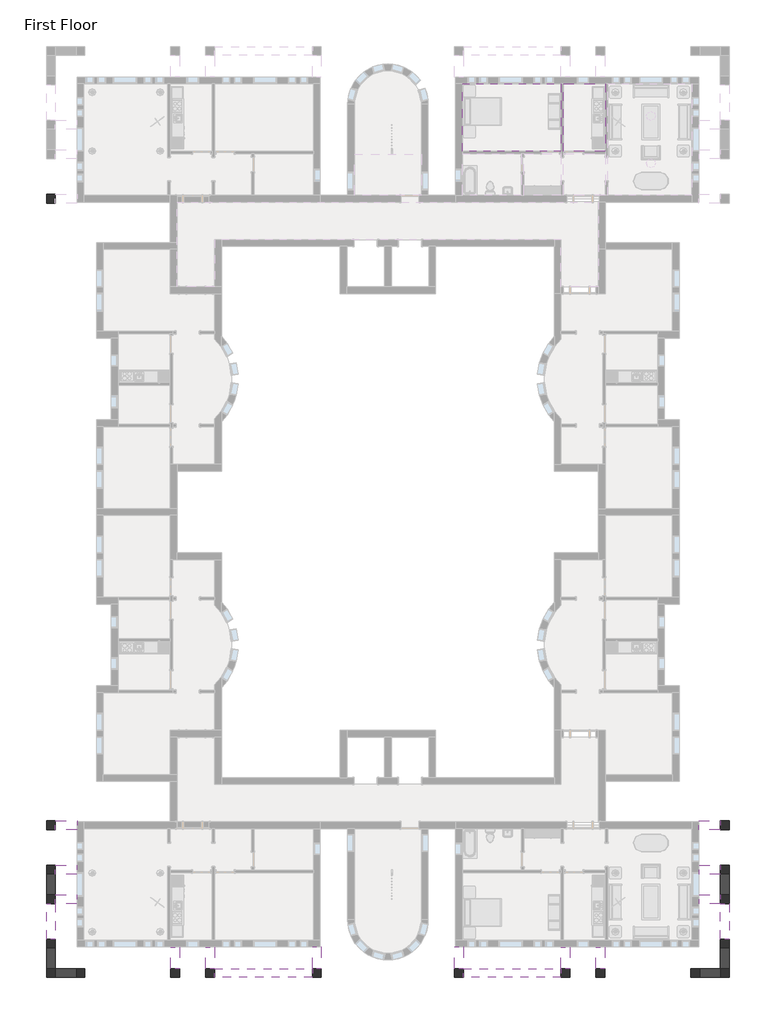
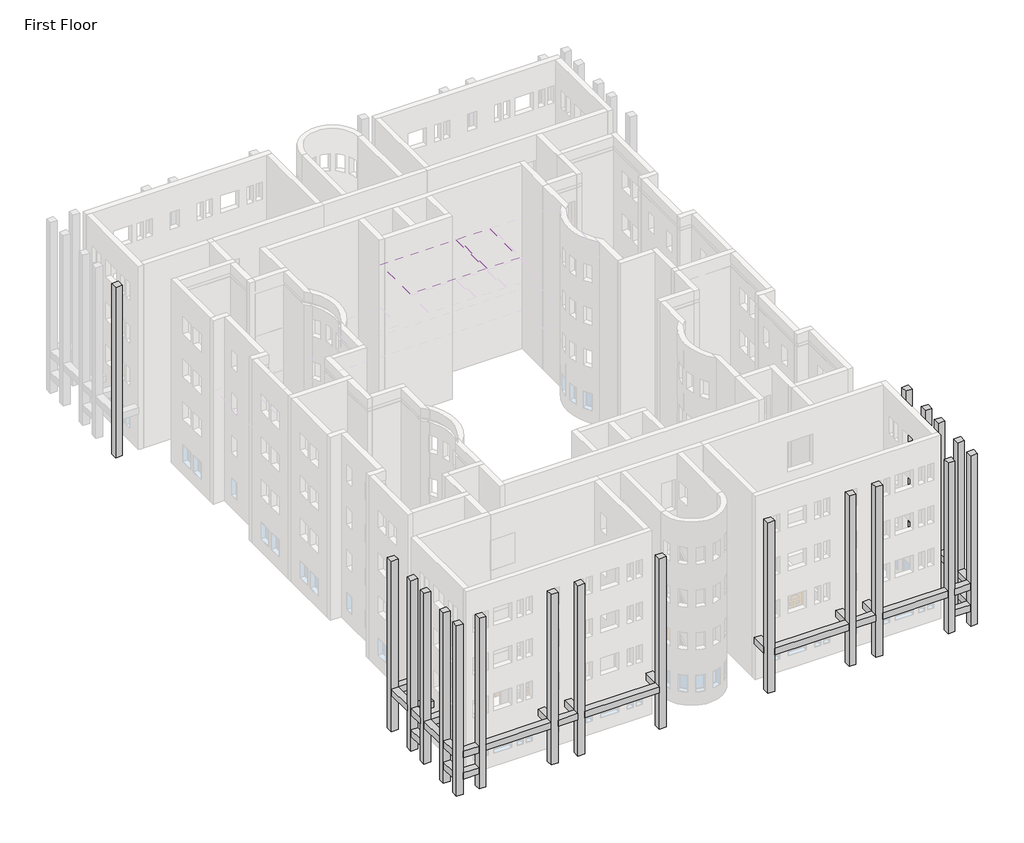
# One storey, part 19 of 23: 22 beams, 19 columns, 2 coverings.
"""IFC4 building model written with IfcOpenShell, lengths in millimetres."""

from ifc_helpers import new_model, si_unit, frame, origin, origin_with_axes, place, context, project, spatial, polyline, outline, extrude, faceted_brep, element, save

model = new_model("IFC4")

# Units and contexts
model_context = context("Model", 3, world=origin())
ifc_project = project(units=[si_unit("LENGTHUNIT", "METRE", prefix="MILLI")], contexts=[model_context])

# Site, building, storey
site = spatial("IfcSite", under=ifc_project)
building = spatial("IfcBuilding", under=site)
storey = spatial("IfcBuildingStorey", under=building, Name="First Floor", Elevation=0.0)

# Beams
placement = place(None, origin())
element("IfcBeam", 1, ObjectType="Concrete-Rectangular Beam : 18 x 18", at=placement, inside=storey, context=model_context, shape_type="SweptSolid", body=[
    extrude(outline(polyline([(2093.9410437, -35349.9683133), (2093.9410437, -35807.1683133), (1027.1410437, -35807.1683133), (1027.1410437, -35349.9683133), (2093.9410437, -35349.9683133)])), frame((0.0, 0.0, 2590.8), z_axis=(0.0, 0.0, 1.0), x_axis=(1.0, 0.0, 0.0)), (0.0, 0.0, 1.0), 457.2),
    extrude(outline(polyline([(569.9410437, -35349.9683133), (569.9410437, -35807.1683133), (-3862.3589563, -35807.1683133), (-3862.3589563, -35349.9683133), (569.9410437, -35349.9683133)])), frame((0.0, 0.0, 2590.8), z_axis=(0.0, 0.0, 1.0), x_axis=(1.0, 0.0, 0.0)), (0.0, 0.0, 1.0), 457.2),
    extrude(outline(polyline([(-5665.7589563, -35807.1683133), (-5665.7589563, -35349.9683133), (-4319.5589563, -35349.9683133), (-4319.5589563, -35807.1683133), (-5665.7589563, -35807.1683133)])), frame((0.0, 0.0, 2590.8), z_axis=(0.0, 0.0, 1.0), x_axis=(1.0, 0.0, 0.0)), (0.0, 0.0, 1.0), 457.2),
    extrude(outline(polyline([(-6122.9589563, -35349.9683133), (-6122.9589563, -35807.1683133), (-11164.8589563, -35807.1683133), (-11164.8589563, -35349.9683133), (-6122.9589563, -35349.9683133)])), frame((0.0, 0.0, 2590.8), z_axis=(0.0, 0.0, 1.0), x_axis=(1.0, 0.0, 0.0)), (0.0, 0.0, 1.0), 457.2),
])
element("IfcBeam", 2, ObjectType="Concrete-Rectangular Beam : 18 x 18", at=placement, inside=storey, context=model_context, shape_type="SweptSolid", body=[
    extrude(outline(polyline([(2093.9410437, -28187.1683133), (2551.1410437, -28187.1683133), (2551.1410437, -30015.9683133), (2093.9410437, -30015.9683133), (2093.9410437, -28187.1683133)])), frame((0.0, 0.0, 2590.8), z_axis=(0.0, 0.0, 1.0), x_axis=(1.0, 0.0, 0.0)), (0.0, 0.0, 1.0), 457.2),
    extrude(outline(polyline([(2551.1410437, -35349.9683133), (2093.9410437, -35349.9683133), (2093.9410437, -34283.1683133), (2551.1410437, -34283.1683133), (2551.1410437, -35349.9683133)])), frame((0.0, 0.0, 2590.8), z_axis=(0.0, 0.0, 1.0), x_axis=(1.0, 0.0, 0.0)), (0.0, 0.0, 1.0), 457.2),
    extrude(outline(polyline([(2093.9410437, -30473.1683133), (2551.1410437, -30473.1683133), (2551.1410437, -31539.9683133), (2093.9410437, -31539.9683133), (2093.9410437, -30473.1683133)])), frame((0.0, 0.0, 2590.8), z_axis=(0.0, 0.0, 1.0), x_axis=(1.0, 0.0, 0.0)), (0.0, 0.0, 1.0), 457.2),
    extrude(outline(polyline([(2551.1410437, -33825.9683133), (2093.9410437, -33825.9683133), (2093.9410437, -31997.1683133), (2551.1410437, -31997.1683133), (2551.1410437, -33825.9683133)])), frame((0.0, 0.0, 2590.8), z_axis=(0.0, 0.0, 1.0), x_axis=(1.0, 0.0, 0.0)), (0.0, 0.0, 1.0), 457.2),
])
element("IfcBeam", 3, ObjectType="Concrete-Rectangular Beam : 18 x 18", at=placement, inside=storey, context=model_context, shape_type="SweptSolid", body=[
    extrude(outline(polyline([(-11622.0589563, -34232.3683133), (-11164.8589563, -34232.3683133), (-11164.8589563, -35349.9683133), (-11622.0589563, -35349.9683133), (-11622.0589563, -34232.3683133)])), frame((0.0, 0.0, 2590.8), z_axis=(0.0, 0.0, 1.0), x_axis=(1.0, 0.0, 0.0)), (0.0, 0.0, 1.0), 457.2),
])
element("IfcBeam", 4, ObjectType="Concrete-Rectangular Beam : 18 x 18", at=placement, inside=storey, context=model_context, shape_type="SweptSolid", body=[
    extrude(outline(polyline([(-6122.9589563, -34251.4183133), (-5665.7589563, -34251.4183133), (-5665.7589563, -35349.9683133), (-6122.9589563, -35349.9683133), (-6122.9589563, -34251.4183133)])), frame((0.0, 0.0, 2590.8), z_axis=(0.0, 0.0, 1.0), x_axis=(1.0, 0.0, 0.0)), (0.0, 0.0, 1.0), 457.2),
])
element("IfcBeam", 5, ObjectType="Concrete-Rectangular Beam : 18 x 18", at=placement, inside=storey, context=model_context, shape_type="SweptSolid", body=[
    extrude(outline(polyline([(1001.7410437, -30473.1683133), (1001.7410437, -30015.9683133), (2093.9410437, -30015.9683133), (2093.9410437, -30473.1683133), (1001.7410437, -30473.1683133)])), frame((0.0, 0.0, 2590.8), z_axis=(0.0, 0.0, 1.0), x_axis=(1.0, 0.0, 0.0)), (0.0, 0.0, 1.0), 457.2),
])
element("IfcBeam", 6, ObjectType="Concrete-Rectangular Beam : 18 x 18", at=placement, inside=storey, context=model_context, shape_type="SweptSolid", body=[
    extrude(outline(polyline([(2093.9410437, -35807.1683133), (1027.1410437, -35807.1683133), (1027.1410437, -35349.9683133), (2093.9410437, -35349.9683133), (2093.9410437, -35807.1683133)])), frame((0.0, 0.0, 1066.8), z_axis=(0.0, 0.0, 1.0), x_axis=(1.0, 0.0, 0.0)), (0.0, 0.0, 1.0), 457.2),
])
element("IfcBeam", 7, ObjectType="Concrete-Rectangular Beam : 18 x 18", at=placement, inside=storey, context=model_context, shape_type="SweptSolid", body=[
    extrude(outline(polyline([(2551.1410437, -34283.1683133), (2551.1410437, -35349.9683133), (2093.9410437, -35349.9683133), (2093.9410437, -34283.1683133), (2551.1410437, -34283.1683133)])), frame((0.0, 0.0, 1066.8), z_axis=(0.0, 0.0, 1.0), x_axis=(1.0, 0.0, 0.0)), (0.0, 0.0, 1.0), 457.2),
])
element("IfcBeam", 8, ObjectType="Concrete-Rectangular Beam : 18 x 18", at=placement, inside=storey, context=model_context, shape_type="SweptSolid", body=[
    extrude(outline(polyline([(-4319.5589563, -34251.4183133), (-3862.3589563, -34251.4183133), (-3862.3589563, -35349.9683133), (-4319.5589563, -35349.9683133), (-4319.5589563, -34251.4183133)])), frame((0.0, 0.0, 2590.8), z_axis=(0.0, 0.0, 1.0), x_axis=(1.0, 0.0, 0.0)), (0.0, 0.0, 1.0), 457.2),
])
element("IfcBeam", 9, ObjectType="Concrete-Rectangular Beam : 18 x 18", at=placement, inside=storey, context=model_context, shape_type="SweptSolid", body=[
    extrude(outline(polyline([(1001.7410437, -31997.1683133), (1001.7410437, -31539.9683133), (2093.9410437, -31539.9683133), (2093.9410437, -31997.1683133), (1001.7410437, -31997.1683133)])), frame((0.0, 0.0, 2590.8), z_axis=(0.0, 0.0, 1.0), x_axis=(1.0, 0.0, 0.0)), (0.0, 0.0, 1.0), 457.2),
])
element("IfcBeam", 10, ObjectType="Concrete-Rectangular Beam : 18 x 18", at=placement, inside=storey, context=model_context, shape_type="SweptSolid", body=[
    extrude(outline(polyline([(976.3410437, -28187.1683133), (976.3410437, -27729.9683133), (2093.9410437, -27729.9683133), (2093.9410437, -28187.1683133), (976.3410437, -28187.1683133)])), frame((0.0, 0.0, 2590.8), z_axis=(0.0, 0.0, 1.0), x_axis=(1.0, 0.0, 0.0)), (0.0, 0.0, 1.0), 457.2),
])
element("IfcBeam", 11, ObjectType="Concrete-Rectangular Beam : 18 x 18", at=placement, inside=storey, context=model_context, shape_type="SweptSolid", body=[
    extrude(outline(polyline([(2551.1410437, -30473.1683133), (2551.1410437, -31539.9683133), (2093.9410437, -31539.9683133), (2093.9410437, -30473.1683133), (2551.1410437, -30473.1683133)])), frame((0.0, 0.0, 1066.8), z_axis=(0.0, 0.0, 1.0), x_axis=(1.0, 0.0, 0.0)), (0.0, 0.0, 1.0), 457.2),
])
element("IfcBeam", 12, ObjectType="Concrete-Rectangular Beam : 18 x 18", at=placement, inside=storey, context=model_context, shape_type="SweptSolid", body=[
    extrude(outline(polyline([(-32218.2839563, -35807.1683133), (-32218.2839563, -35349.9683133), (-31151.4839563, -35349.9683133), (-31151.4839563, -35807.1683133), (-32218.2839563, -35807.1683133)])), frame((0.0, 0.0, 2590.8), z_axis=(0.0, 0.0, 1.0), x_axis=(1.0, 0.0, 0.0)), (0.0, 0.0, 1.0), 457.2),
    extrude(outline(polyline([(-30694.2839563, -35807.1683133), (-30694.2839563, -35349.9683133), (-26261.9839563, -35349.9683133), (-26261.9839563, -35807.1683133), (-30694.2839563, -35807.1683133)])), frame((0.0, 0.0, 2590.8), z_axis=(0.0, 0.0, 1.0), x_axis=(1.0, 0.0, 0.0)), (0.0, 0.0, 1.0), 457.2),
    extrude(outline(polyline([(-24458.5839563, -35349.9683133), (-24458.5839563, -35807.1683133), (-25804.7839563, -35807.1683133), (-25804.7839563, -35349.9683133), (-24458.5839563, -35349.9683133)])), frame((0.0, 0.0, 2590.8), z_axis=(0.0, 0.0, 1.0), x_axis=(1.0, 0.0, 0.0)), (0.0, 0.0, 1.0), 457.2),
    extrude(outline(polyline([(-24001.3839563, -35807.1683133), (-24001.3839563, -35349.9683133), (-18959.4839563, -35349.9683133), (-18959.4839563, -35807.1683133), (-24001.3839563, -35807.1683133)])), frame((0.0, 0.0, 2590.8), z_axis=(0.0, 0.0, 1.0), x_axis=(1.0, 0.0, 0.0)), (0.0, 0.0, 1.0), 457.2),
])
element("IfcBeam", 13, ObjectType="Concrete-Rectangular Beam : 18 x 18", at=placement, inside=storey, context=model_context, shape_type="SweptSolid", body=[
    extrude(outline(polyline([(-32218.2839563, -35349.9683133), (-32675.4839563, -35349.9683133), (-32675.4839563, -34283.1683133), (-32218.2839563, -34283.1683133), (-32218.2839563, -35349.9683133)])), frame((0.0, 0.0, 2590.8), z_axis=(0.0, 0.0, 1.0), x_axis=(1.0, 0.0, 0.0)), (0.0, 0.0, 1.0), 457.2),
    extrude(outline(polyline([(-32675.4839563, -28187.1683133), (-32218.2839563, -28187.1683133), (-32218.2839563, -30015.9683133), (-32675.4839563, -30015.9683133), (-32675.4839563, -28187.1683133)])), frame((0.0, 0.0, 2590.8), z_axis=(0.0, 0.0, 1.0), x_axis=(1.0, 0.0, 0.0)), (0.0, 0.0, 1.0), 457.2),
    extrude(outline(polyline([(-32675.4839563, -30473.1683133), (-32218.2839563, -30473.1683133), (-32218.2839563, -31539.9683133), (-32675.4839563, -31539.9683133), (-32675.4839563, -30473.1683133)])), frame((0.0, 0.0, 2590.8), z_axis=(0.0, 0.0, 1.0), x_axis=(1.0, 0.0, 0.0)), (0.0, 0.0, 1.0), 457.2),
    extrude(outline(polyline([(-32218.2839563, -33825.9683133), (-32675.4839563, -33825.9683133), (-32675.4839563, -31997.1683133), (-32218.2839563, -31997.1683133), (-32218.2839563, -33825.9683133)])), frame((0.0, 0.0, 2590.8), z_axis=(0.0, 0.0, 1.0), x_axis=(1.0, 0.0, 0.0)), (0.0, 0.0, 1.0), 457.2),
])
element("IfcBeam", 14, ObjectType="Concrete-Rectangular Beam : 18 x 18", at=placement, inside=storey, context=model_context, shape_type="SweptSolid", body=[
    extrude(outline(polyline([(-18959.4839563, -34232.3683133), (-18502.2839563, -34232.3683133), (-18502.2839563, -35349.9683133), (-18959.4839563, -35349.9683133), (-18959.4839563, -34232.3683133)])), frame((0.0, 0.0, 2590.8), z_axis=(0.0, 0.0, 1.0), x_axis=(1.0, 0.0, 0.0)), (0.0, 0.0, 1.0), 457.2),
])
element("IfcBeam", 15, ObjectType="Concrete-Rectangular Beam : 18 x 18", at=placement, inside=storey, context=model_context, shape_type="SweptSolid", body=[
    extrude(outline(polyline([(-24458.5839563, -34251.4183133), (-24001.3839563, -34251.4183133), (-24001.3839563, -35349.9683133), (-24458.5839563, -35349.9683133), (-24458.5839563, -34251.4183133)])), frame((0.0, 0.0, 2590.8), z_axis=(0.0, 0.0, 1.0), x_axis=(1.0, 0.0, 0.0)), (0.0, 0.0, 1.0), 457.2),
])
element("IfcBeam", 16, ObjectType="Concrete-Rectangular Beam : 18 x 18", at=placement, inside=storey, context=model_context, shape_type="SweptSolid", body=[
    extrude(outline(polyline([(-31126.0839563, -30015.9683133), (-31126.0839563, -30473.1683133), (-32218.2839563, -30473.1683133), (-32218.2839563, -30015.9683133), (-31126.0839563, -30015.9683133)])), frame((0.0, 0.0, 2590.8), z_axis=(0.0, 0.0, 1.0), x_axis=(1.0, 0.0, 0.0)), (0.0, 0.0, 1.0), 457.2),
])
element("IfcBeam", 17, ObjectType="Concrete-Rectangular Beam : 18 x 18", at=placement, inside=storey, context=model_context, shape_type="SweptSolid", body=[
    extrude(outline(polyline([(-32218.2839563, -35807.1683133), (-32218.2839563, -35349.9683133), (-31151.4839563, -35349.9683133), (-31151.4839563, -35807.1683133), (-32218.2839563, -35807.1683133)])), frame((0.0, 0.0, 1066.8), z_axis=(0.0, 0.0, 1.0), x_axis=(1.0, 0.0, 0.0)), (0.0, 0.0, 1.0), 457.2),
])
element("IfcBeam", 18, ObjectType="Concrete-Rectangular Beam : 18 x 18", at=placement, inside=storey, context=model_context, shape_type="SweptSolid", body=[
    extrude(outline(polyline([(-32675.4839563, -34283.1683133), (-32218.2839563, -34283.1683133), (-32218.2839563, -35349.9683133), (-32675.4839563, -35349.9683133), (-32675.4839563, -34283.1683133)])), frame((0.0, 0.0, 1066.8), z_axis=(0.0, 0.0, 1.0), x_axis=(1.0, 0.0, 0.0)), (0.0, 0.0, 1.0), 457.2),
])
element("IfcBeam", 19, ObjectType="Concrete-Rectangular Beam : 18 x 18", at=placement, inside=storey, context=model_context, shape_type="SweptSolid", body=[
    extrude(outline(polyline([(-26261.9839563, -34251.4183133), (-25804.7839563, -34251.4183133), (-25804.7839563, -35349.9683133), (-26261.9839563, -35349.9683133), (-26261.9839563, -34251.4183133)])), frame((0.0, 0.0, 2590.8), z_axis=(0.0, 0.0, 1.0), x_axis=(1.0, 0.0, 0.0)), (0.0, 0.0, 1.0), 457.2),
])
element("IfcBeam", 20, ObjectType="Concrete-Rectangular Beam : 18 x 18", at=placement, inside=storey, context=model_context, shape_type="SweptSolid", body=[
    extrude(outline(polyline([(-31126.0839563, -31539.9683133), (-31126.0839563, -31997.1683133), (-32218.2839563, -31997.1683133), (-32218.2839563, -31539.9683133), (-31126.0839563, -31539.9683133)])), frame((0.0, 0.0, 2590.8), z_axis=(0.0, 0.0, 1.0), x_axis=(1.0, 0.0, 0.0)), (0.0, 0.0, 1.0), 457.2),
])
element("IfcBeam", 21, ObjectType="Concrete-Rectangular Beam : 18 x 18", at=placement, inside=storey, context=model_context, shape_type="SweptSolid", body=[
    extrude(outline(polyline([(-31100.6839563, -27729.9683133), (-31100.6839563, -28187.1683133), (-32218.2839563, -28187.1683133), (-32218.2839563, -27729.9683133), (-31100.6839563, -27729.9683133)])), frame((0.0, 0.0, 2590.8), z_axis=(0.0, 0.0, 1.0), x_axis=(1.0, 0.0, 0.0)), (0.0, 0.0, 1.0), 457.2),
])
element("IfcBeam", 22, ObjectType="Concrete-Rectangular Beam : 18 x 18", at=placement, inside=storey, context=model_context, shape_type="SweptSolid", body=[
    extrude(outline(polyline([(-32675.4839563, -30473.1683133), (-32218.2839563, -30473.1683133), (-32218.2839563, -31539.9683133), (-32675.4839563, -31539.9683133), (-32675.4839563, -30473.1683133)])), frame((0.0, 0.0, 1066.8), z_axis=(0.0, 0.0, 1.0), x_axis=(1.0, 0.0, 0.0)), (0.0, 0.0, 1.0), 457.2),
])

# Columns
element("IfcColumn", 23, ObjectType="Concrete-Square-Column : 18 x 18", at=placement, inside=storey, context=model_context, shape_type="SweptSolid", body=[
    extrude(outline(polyline([(-32675.4839563, 4578.8316867), (-32218.2839563, 4578.8316867), (-32218.2839563, 4121.6316867), (-32675.4839563, 4121.6316867), (-32675.4839563, 4578.8316867)])), origin_with_axes(), (0.0, 0.0, 1.0), 12192.0),
])
element("IfcColumn", 24, ObjectType="Concrete-Square-Column : 18 x 18", at=placement, inside=storey, context=model_context, shape_type="Brep", body=[
    faceted_brep([(1027.1410437, -35807.1683133, 0.0), (569.9410437, -35807.1683133, 0.0), (569.9410437, -35349.9683133, 0.0), (1027.1410437, -35349.9683133, 0.0), (1027.1410437, -35807.1683133, 12192.0), (1027.1410437, -35807.1683133, 11734.8), (1027.1410437, -35807.1683133, 9144.0), (1027.1410437, -35807.1683133, 8686.8), (1027.1410437, -35807.1683133, 6096.0), (1027.1410437, -35807.1683133, 5638.8), (1027.1410437, -35807.1683133, 3048.0), (1027.1410437, -35807.1683133, 2590.8), (1027.1410437, -35349.9683133, 2590.8), (1027.1410437, -35349.9683133, 3048.0), (1027.1410437, -35349.9683133, 5638.8), (1027.1410437, -35349.9683133, 6096.0), (1027.1410437, -35349.9683133, 8686.8), (1027.1410437, -35349.9683133, 9144.0), (1027.1410437, -35349.9683133, 11734.8), (1027.1410437, -35349.9683133, 12192.0), (569.9410437, -35349.9683133, 2590.8), (569.9410437, -35349.9683133, 3048.0), (569.9410437, -35349.9683133, 5638.8), (569.9410437, -35349.9683133, 6096.0), (569.9410437, -35349.9683133, 8686.8), (569.9410437, -35349.9683133, 9144.0), (569.9410437, -35349.9683133, 11734.8), (569.9410437, -35349.9683133, 12192.0), (569.9410437, -35807.1683133, 2590.8), (569.9410437, -35807.1683133, 3048.0), (569.9410437, -35807.1683133, 5638.8), (569.9410437, -35807.1683133, 6096.0), (569.9410437, -35807.1683133, 8686.8), (569.9410437, -35807.1683133, 9144.0), (569.9410437, -35807.1683133, 11734.8), (569.9410437, -35807.1683133, 12192.0)], [[[0, 1, 2, 3]], [[4, 5, 6, 7, 8, 9, 10, 11, 0, 3, 12, 13, 14, 15, 16, 17, 18, 19]], [[19, 18, 17, 16, 15, 14, 13, 12, 3, 2, 20, 21, 22, 23, 24, 25, 26, 27]], [[27, 26, 25, 24, 23, 22, 21, 20, 2, 1, 28, 29, 30, 31, 32, 33, 34, 35]], [[35, 34, 33, 32, 31, 30, 29, 28, 1, 0, 11, 10, 9, 8, 7, 6, 5, 4]], [[4, 19, 27, 35]]]),
])
element("IfcColumn", 25, ObjectType="Concrete-Square-Column : 18 x 18", at=placement, inside=storey, context=model_context, shape_type="SweptSolid", body=[
    extrude(outline(polyline([(2551.1410437, -35807.1683133), (2093.9410437, -35807.1683133), (2093.9410437, -35349.9683133), (2551.1410437, -35349.9683133), (2551.1410437, -35807.1683133)])), origin_with_axes(), (0.0, 0.0, 1.0), 12192.0),
])
element("IfcColumn", 26, ObjectType="Concrete-Square-Column : 18 x 18", at=placement, inside=storey, context=model_context, shape_type="Brep", body=[
    faceted_brep([(-5665.7589563, -35807.1683133, 0.0), (-6122.9589563, -35807.1683133, 0.0), (-6122.9589563, -35349.9683133, 0.0), (-5665.7589563, -35349.9683133, 0.0), (-5665.7589563, -35807.1683133, 12192.0), (-5665.7589563, -35807.1683133, 11734.8), (-5665.7589563, -35807.1683133, 9144.0), (-5665.7589563, -35807.1683133, 8686.8), (-5665.7589563, -35807.1683133, 6096.0), (-5665.7589563, -35807.1683133, 5638.8), (-5665.7589563, -35807.1683133, 3048.0), (-5665.7589563, -35807.1683133, 2590.8), (-5665.7589563, -35349.9683133, 2590.8), (-5665.7589563, -35349.9683133, 3048.0), (-5665.7589563, -35349.9683133, 5638.8), (-5665.7589563, -35349.9683133, 6096.0), (-5665.7589563, -35349.9683133, 8686.8), (-5665.7589563, -35349.9683133, 9144.0), (-5665.7589563, -35349.9683133, 11734.8), (-5665.7589563, -35349.9683133, 12192.0), (-6122.9589563, -35349.9683133, 2590.8), (-6122.9589563, -35349.9683133, 3048.0), (-6122.9589563, -35349.9683133, 5638.8), (-6122.9589563, -35349.9683133, 6096.0), (-6122.9589563, -35349.9683133, 8686.8), (-6122.9589563, -35349.9683133, 9144.0), (-6122.9589563, -35349.9683133, 11734.8), (-6122.9589563, -35349.9683133, 12192.0), (-6122.9589563, -35807.1683133, 2590.8), (-6122.9589563, -35807.1683133, 3048.0), (-6122.9589563, -35807.1683133, 5638.8), (-6122.9589563, -35807.1683133, 6096.0), (-6122.9589563, -35807.1683133, 8686.8), (-6122.9589563, -35807.1683133, 9144.0), (-6122.9589563, -35807.1683133, 11734.8), (-6122.9589563, -35807.1683133, 12192.0)], [[[0, 1, 2, 3]], [[4, 5, 6, 7, 8, 9, 10, 11, 0, 3, 12, 13, 14, 15, 16, 17, 18, 19]], [[19, 18, 17, 16, 15, 14, 13, 12, 3, 2, 20, 21, 22, 23, 24, 25, 26, 27]], [[27, 26, 25, 24, 23, 22, 21, 20, 2, 1, 28, 29, 30, 31, 32, 33, 34, 35]], [[35, 34, 33, 32, 31, 30, 29, 28, 1, 0, 11, 10, 9, 8, 7, 6, 5, 4]], [[4, 19, 27, 35]]]),
])
element("IfcColumn", 27, ObjectType="Concrete-Square-Column : 18 x 18", at=placement, inside=storey, context=model_context, shape_type="Brep", body=[
    faceted_brep([(2551.1410437, -30473.1683133, 0.0), (2093.9410437, -30473.1683133, 0.0), (2093.9410437, -30015.9683133, 0.0), (2551.1410437, -30015.9683133, 0.0), (2551.1410437, -30473.1683133, 12192.0), (2551.1410437, -30473.1683133, 11734.8), (2551.1410437, -30473.1683133, 9144.0), (2551.1410437, -30473.1683133, 8686.8), (2551.1410437, -30473.1683133, 6096.0), (2551.1410437, -30473.1683133, 5638.8), (2551.1410437, -30473.1683133, 3048.0), (2551.1410437, -30473.1683133, 2590.8), (2551.1410437, -30015.9683133, 2590.8), (2551.1410437, -30015.9683133, 3048.0), (2551.1410437, -30015.9683133, 5638.8), (2551.1410437, -30015.9683133, 6096.0), (2551.1410437, -30015.9683133, 8686.8), (2551.1410437, -30015.9683133, 9144.0), (2551.1410437, -30015.9683133, 11734.8), (2551.1410437, -30015.9683133, 12192.0), (2093.9410437, -30015.9683133, 2590.8), (2093.9410437, -30015.9683133, 3048.0), (2093.9410437, -30015.9683133, 5638.8), (2093.9410437, -30015.9683133, 6096.0), (2093.9410437, -30015.9683133, 8686.8), (2093.9410437, -30015.9683133, 9144.0), (2093.9410437, -30015.9683133, 11734.8), (2093.9410437, -30015.9683133, 12192.0), (2093.9410437, -30473.1683133, 2590.8), (2093.9410437, -30473.1683133, 3048.0), (2093.9410437, -30473.1683133, 5638.8), (2093.9410437, -30473.1683133, 6096.0), (2093.9410437, -30473.1683133, 8686.8), (2093.9410437, -30473.1683133, 9144.0), (2093.9410437, -30473.1683133, 11734.8), (2093.9410437, -30473.1683133, 12192.0)], [[[0, 1, 2, 3]], [[4, 5, 6, 7, 8, 9, 10, 11, 0, 3, 12, 13, 14, 15, 16, 17, 18, 19]], [[19, 18, 17, 16, 15, 14, 13, 12, 3, 2, 20, 21, 22, 23, 24, 25, 26, 27]], [[27, 26, 25, 24, 23, 22, 21, 20, 2, 1, 28, 29, 30, 31, 32, 33, 34, 35]], [[35, 34, 33, 32, 31, 30, 29, 28, 1, 0, 11, 10, 9, 8, 7, 6, 5, 4]], [[4, 19, 27, 35]]]),
])
element("IfcColumn", 28, ObjectType="Concrete-Square-Column : 18 x 18", at=placement, inside=storey, context=model_context, shape_type="SweptSolid", body=[
    extrude(outline(polyline([(2551.1410437, -28187.1683133), (2093.9410437, -28187.1683133), (2093.9410437, -27729.9683133), (2551.1410437, -27729.9683133), (2551.1410437, -28187.1683133)])), origin_with_axes(), (0.0, 0.0, 1.0), 12192.0),
])
element("IfcColumn", 29, ObjectType="Concrete-Square-Column : 18 x 18", at=placement, inside=storey, context=model_context, shape_type="Brep", body=[
    faceted_brep([(-11164.8589563, -35807.1683133, 0.0), (-11622.0589563, -35807.1683133, 0.0), (-11622.0589563, -35349.9683133, 0.0), (-11164.8589563, -35349.9683133, 0.0), (-11164.8589563, -35807.1683133, 12192.0), (-11164.8589563, -35807.1683133, 11734.8), (-11164.8589563, -35807.1683133, 9144.0), (-11164.8589563, -35807.1683133, 8686.8), (-11164.8589563, -35807.1683133, 6096.0), (-11164.8589563, -35807.1683133, 5638.8), (-11164.8589563, -35807.1683133, 3048.0), (-11164.8589563, -35807.1683133, 2590.8), (-11164.8589563, -35349.9683133, 2590.8), (-11164.8589563, -35349.9683133, 3048.0), (-11164.8589563, -35349.9683133, 5638.8), (-11164.8589563, -35349.9683133, 6096.0), (-11164.8589563, -35349.9683133, 8686.8), (-11164.8589563, -35349.9683133, 9144.0), (-11164.8589563, -35349.9683133, 11734.8), (-11164.8589563, -35349.9683133, 12192.0), (-11622.0589563, -35349.9683133, 12192.0), (-11622.0589563, -35807.1683133, 12192.0)], [[[0, 1, 2, 3]], [[4, 5, 6, 7, 8, 9, 10, 11, 0, 3, 12, 13, 14, 15, 16, 17, 18, 19]], [[19, 18, 17, 16, 15, 14, 13, 12, 3, 2, 20]], [[20, 2, 1, 21]], [[21, 1, 0, 11, 10, 9, 8, 7, 6, 5, 4]], [[4, 19, 20, 21]]]),
])
element("IfcColumn", 30, ObjectType="Concrete-Square-Column : 18 x 18", at=placement, inside=storey, context=model_context, shape_type="Brep", body=[
    faceted_brep([(2551.1410437, -34283.1683133, 0.0), (2093.9410437, -34283.1683133, 0.0), (2093.9410437, -33825.9683133, 0.0), (2551.1410437, -33825.9683133, 0.0), (2551.1410437, -34283.1683133, 12192.0), (2551.1410437, -34283.1683133, 11734.8), (2551.1410437, -34283.1683133, 9144.0), (2551.1410437, -34283.1683133, 8686.8), (2551.1410437, -34283.1683133, 6096.0), (2551.1410437, -34283.1683133, 5638.8), (2551.1410437, -34283.1683133, 3048.0), (2551.1410437, -34283.1683133, 2590.8), (2551.1410437, -33825.9683133, 2590.8), (2551.1410437, -33825.9683133, 3048.0), (2551.1410437, -33825.9683133, 5638.8), (2551.1410437, -33825.9683133, 6096.0), (2551.1410437, -33825.9683133, 8686.8), (2551.1410437, -33825.9683133, 9144.0), (2551.1410437, -33825.9683133, 11734.8), (2551.1410437, -33825.9683133, 12192.0), (2093.9410437, -33825.9683133, 2590.8), (2093.9410437, -33825.9683133, 3048.0), (2093.9410437, -33825.9683133, 5638.8), (2093.9410437, -33825.9683133, 6096.0), (2093.9410437, -33825.9683133, 8686.8), (2093.9410437, -33825.9683133, 9144.0), (2093.9410437, -33825.9683133, 11734.8), (2093.9410437, -33825.9683133, 12192.0), (2093.9410437, -34283.1683133, 2590.8), (2093.9410437, -34283.1683133, 3048.0), (2093.9410437, -34283.1683133, 5638.8), (2093.9410437, -34283.1683133, 6096.0), (2093.9410437, -34283.1683133, 8686.8), (2093.9410437, -34283.1683133, 9144.0), (2093.9410437, -34283.1683133, 11734.8), (2093.9410437, -34283.1683133, 12192.0)], [[[0, 1, 2, 3]], [[4, 5, 6, 7, 8, 9, 10, 11, 0, 3, 12, 13, 14, 15, 16, 17, 18, 19]], [[19, 18, 17, 16, 15, 14, 13, 12, 3, 2, 20, 21, 22, 23, 24, 25, 26, 27]], [[27, 26, 25, 24, 23, 22, 21, 20, 2, 1, 28, 29, 30, 31, 32, 33, 34, 35]], [[35, 34, 33, 32, 31, 30, 29, 28, 1, 0, 11, 10, 9, 8, 7, 6, 5, 4]], [[4, 19, 27, 35]]]),
])
element("IfcColumn", 31, ObjectType="Concrete-Square-Column : 18 x 18", at=placement, inside=storey, context=model_context, shape_type="Brep", body=[
    faceted_brep([(2551.1410437, -31997.1683133, 0.0), (2093.9410437, -31997.1683133, 0.0), (2093.9410437, -31539.9683133, 0.0), (2551.1410437, -31539.9683133, 0.0), (2551.1410437, -31997.1683133, 12192.0), (2551.1410437, -31997.1683133, 11734.8), (2551.1410437, -31997.1683133, 9144.0), (2551.1410437, -31997.1683133, 8686.8), (2551.1410437, -31997.1683133, 6096.0), (2551.1410437, -31997.1683133, 5638.8), (2551.1410437, -31997.1683133, 3048.0), (2551.1410437, -31997.1683133, 2590.8), (2551.1410437, -31539.9683133, 2590.8), (2551.1410437, -31539.9683133, 3048.0), (2551.1410437, -31539.9683133, 5638.8), (2551.1410437, -31539.9683133, 6096.0), (2551.1410437, -31539.9683133, 8686.8), (2551.1410437, -31539.9683133, 9144.0), (2551.1410437, -31539.9683133, 11734.8), (2551.1410437, -31539.9683133, 12192.0), (2093.9410437, -31539.9683133, 2590.8), (2093.9410437, -31539.9683133, 3048.0), (2093.9410437, -31539.9683133, 5638.8), (2093.9410437, -31539.9683133, 6096.0), (2093.9410437, -31539.9683133, 8686.8), (2093.9410437, -31539.9683133, 9144.0), (2093.9410437, -31539.9683133, 11734.8), (2093.9410437, -31539.9683133, 12192.0), (2093.9410437, -31997.1683133, 2590.8), (2093.9410437, -31997.1683133, 3048.0), (2093.9410437, -31997.1683133, 5638.8), (2093.9410437, -31997.1683133, 6096.0), (2093.9410437, -31997.1683133, 8686.8), (2093.9410437, -31997.1683133, 9144.0), (2093.9410437, -31997.1683133, 11734.8), (2093.9410437, -31997.1683133, 12192.0)], [[[0, 1, 2, 3]], [[4, 5, 6, 7, 8, 9, 10, 11, 0, 3, 12, 13, 14, 15, 16, 17, 18, 19]], [[19, 18, 17, 16, 15, 14, 13, 12, 3, 2, 20, 21, 22, 23, 24, 25, 26, 27]], [[27, 26, 25, 24, 23, 22, 21, 20, 2, 1, 28, 29, 30, 31, 32, 33, 34, 35]], [[35, 34, 33, 32, 31, 30, 29, 28, 1, 0, 11, 10, 9, 8, 7, 6, 5, 4]], [[4, 19, 27, 35]]]),
])
element("IfcColumn", 32, ObjectType="Concrete-Square-Column : 18 x 18", at=placement, inside=storey, context=model_context, shape_type="Brep", body=[
    faceted_brep([(-3862.3589563, -35807.1683133, 0.0), (-4319.5589563, -35807.1683133, 0.0), (-4319.5589563, -35349.9683133, 0.0), (-3862.3589563, -35349.9683133, 0.0), (-3862.3589563, -35807.1683133, 12192.0), (-3862.3589563, -35807.1683133, 11734.8), (-3862.3589563, -35807.1683133, 9144.0), (-3862.3589563, -35807.1683133, 8686.8), (-3862.3589563, -35807.1683133, 6096.0), (-3862.3589563, -35807.1683133, 5638.8), (-3862.3589563, -35807.1683133, 3048.0), (-3862.3589563, -35807.1683133, 2590.8), (-3862.3589563, -35349.9683133, 2590.8), (-3862.3589563, -35349.9683133, 3048.0), (-3862.3589563, -35349.9683133, 5638.8), (-3862.3589563, -35349.9683133, 6096.0), (-3862.3589563, -35349.9683133, 8686.8), (-3862.3589563, -35349.9683133, 9144.0), (-3862.3589563, -35349.9683133, 11734.8), (-3862.3589563, -35349.9683133, 12192.0), (-4319.5589563, -35349.9683133, 2590.8), (-4319.5589563, -35349.9683133, 3048.0), (-4319.5589563, -35349.9683133, 5638.8), (-4319.5589563, -35349.9683133, 6096.0), (-4319.5589563, -35349.9683133, 8686.8), (-4319.5589563, -35349.9683133, 9144.0), (-4319.5589563, -35349.9683133, 11734.8), (-4319.5589563, -35349.9683133, 12192.0), (-4319.5589563, -35807.1683133, 2590.8), (-4319.5589563, -35807.1683133, 3048.0), (-4319.5589563, -35807.1683133, 5638.8), (-4319.5589563, -35807.1683133, 6096.0), (-4319.5589563, -35807.1683133, 8686.8), (-4319.5589563, -35807.1683133, 9144.0), (-4319.5589563, -35807.1683133, 11734.8), (-4319.5589563, -35807.1683133, 12192.0)], [[[0, 1, 2, 3]], [[4, 5, 6, 7, 8, 9, 10, 11, 0, 3, 12, 13, 14, 15, 16, 17, 18, 19]], [[19, 18, 17, 16, 15, 14, 13, 12, 3, 2, 20, 21, 22, 23, 24, 25, 26, 27]], [[27, 26, 25, 24, 23, 22, 21, 20, 2, 1, 28, 29, 30, 31, 32, 33, 34, 35]], [[35, 34, 33, 32, 31, 30, 29, 28, 1, 0, 11, 10, 9, 8, 7, 6, 5, 4]], [[4, 19, 27, 35]]]),
])
element("IfcColumn", 33, ObjectType="Concrete-Square-Column : 18 x 18", at=placement, inside=storey, context=model_context, shape_type="Brep", body=[
    faceted_brep([(-31151.4839563, -35807.1683133, 0.0), (-31151.4839563, -35349.9683133, 0.0), (-30694.2839563, -35349.9683133, 0.0), (-30694.2839563, -35807.1683133, 0.0), (-31151.4839563, -35807.1683133, 12192.0), (-31151.4839563, -35349.9683133, 12192.0), (-31151.4839563, -35349.9683133, 11734.8), (-31151.4839563, -35349.9683133, 9144.0), (-31151.4839563, -35349.9683133, 8686.8), (-31151.4839563, -35349.9683133, 6096.0), (-31151.4839563, -35349.9683133, 5638.8), (-31151.4839563, -35349.9683133, 3048.0), (-31151.4839563, -35349.9683133, 2590.8), (-31151.4839563, -35807.1683133, 2590.8), (-31151.4839563, -35807.1683133, 3048.0), (-31151.4839563, -35807.1683133, 5638.8), (-31151.4839563, -35807.1683133, 6096.0), (-31151.4839563, -35807.1683133, 8686.8), (-31151.4839563, -35807.1683133, 9144.0), (-31151.4839563, -35807.1683133, 11734.8), (-30694.2839563, -35349.9683133, 12192.0), (-30694.2839563, -35349.9683133, 11734.8), (-30694.2839563, -35349.9683133, 9144.0), (-30694.2839563, -35349.9683133, 8686.8), (-30694.2839563, -35349.9683133, 6096.0), (-30694.2839563, -35349.9683133, 5638.8), (-30694.2839563, -35349.9683133, 3048.0), (-30694.2839563, -35349.9683133, 2590.8), (-30694.2839563, -35807.1683133, 12192.0), (-30694.2839563, -35807.1683133, 11734.8), (-30694.2839563, -35807.1683133, 9144.0), (-30694.2839563, -35807.1683133, 8686.8), (-30694.2839563, -35807.1683133, 6096.0), (-30694.2839563, -35807.1683133, 5638.8), (-30694.2839563, -35807.1683133, 3048.0), (-30694.2839563, -35807.1683133, 2590.8)], [[[0, 1, 2, 3]], [[4, 5, 6, 7, 8, 9, 10, 11, 12, 1, 0, 13, 14, 15, 16, 17, 18, 19]], [[5, 20, 21, 22, 23, 24, 25, 26, 27, 2, 1, 12, 11, 10, 9, 8, 7, 6]], [[20, 28, 29, 30, 31, 32, 33, 34, 35, 3, 2, 27, 26, 25, 24, 23, 22, 21]], [[28, 4, 19, 18, 17, 16, 15, 14, 13, 0, 3, 35, 34, 33, 32, 31, 30, 29]], [[4, 28, 20, 5]]]),
])
element("IfcColumn", 34, ObjectType="Concrete-Square-Column : 18 x 18", at=placement, inside=storey, context=model_context, shape_type="SweptSolid", body=[
    extrude(outline(polyline([(-32675.4839563, -35807.1683133), (-32675.4839563, -35349.9683133), (-32218.2839563, -35349.9683133), (-32218.2839563, -35807.1683133), (-32675.4839563, -35807.1683133)])), origin_with_axes(), (0.0, 0.0, 1.0), 12192.0),
])
element("IfcColumn", 35, ObjectType="Concrete-Square-Column : 18 x 18", at=placement, inside=storey, context=model_context, shape_type="Brep", body=[
    faceted_brep([(-24458.5839563, -35807.1683133, 0.0), (-24458.5839563, -35349.9683133, 0.0), (-24001.3839563, -35349.9683133, 0.0), (-24001.3839563, -35807.1683133, 0.0), (-24458.5839563, -35807.1683133, 12192.0), (-24458.5839563, -35349.9683133, 12192.0), (-24458.5839563, -35349.9683133, 11734.8), (-24458.5839563, -35349.9683133, 9144.0), (-24458.5839563, -35349.9683133, 8686.8), (-24458.5839563, -35349.9683133, 6096.0), (-24458.5839563, -35349.9683133, 5638.8), (-24458.5839563, -35349.9683133, 3048.0), (-24458.5839563, -35349.9683133, 2590.8), (-24458.5839563, -35807.1683133, 2590.8), (-24458.5839563, -35807.1683133, 3048.0), (-24458.5839563, -35807.1683133, 5638.8), (-24458.5839563, -35807.1683133, 6096.0), (-24458.5839563, -35807.1683133, 8686.8), (-24458.5839563, -35807.1683133, 9144.0), (-24458.5839563, -35807.1683133, 11734.8), (-24001.3839563, -35349.9683133, 12192.0), (-24001.3839563, -35349.9683133, 11734.8), (-24001.3839563, -35349.9683133, 9144.0), (-24001.3839563, -35349.9683133, 8686.8), (-24001.3839563, -35349.9683133, 6096.0), (-24001.3839563, -35349.9683133, 5638.8), (-24001.3839563, -35349.9683133, 3048.0), (-24001.3839563, -35349.9683133, 2590.8), (-24001.3839563, -35807.1683133, 12192.0), (-24001.3839563, -35807.1683133, 11734.8), (-24001.3839563, -35807.1683133, 9144.0), (-24001.3839563, -35807.1683133, 8686.8), (-24001.3839563, -35807.1683133, 6096.0), (-24001.3839563, -35807.1683133, 5638.8), (-24001.3839563, -35807.1683133, 3048.0), (-24001.3839563, -35807.1683133, 2590.8)], [[[0, 1, 2, 3]], [[4, 5, 6, 7, 8, 9, 10, 11, 12, 1, 0, 13, 14, 15, 16, 17, 18, 19]], [[5, 20, 21, 22, 23, 24, 25, 26, 27, 2, 1, 12, 11, 10, 9, 8, 7, 6]], [[20, 28, 29, 30, 31, 32, 33, 34, 35, 3, 2, 27, 26, 25, 24, 23, 22, 21]], [[28, 4, 19, 18, 17, 16, 15, 14, 13, 0, 3, 35, 34, 33, 32, 31, 30, 29]], [[4, 28, 20, 5]]]),
])
element("IfcColumn", 36, ObjectType="Concrete-Square-Column : 18 x 18", at=placement, inside=storey, context=model_context, shape_type="Brep", body=[
    faceted_brep([(-32675.4839563, -30473.1683133, 0.0), (-32675.4839563, -30015.9683133, 0.0), (-32218.2839563, -30015.9683133, 0.0), (-32218.2839563, -30473.1683133, 0.0), (-32675.4839563, -30473.1683133, 12192.0), (-32675.4839563, -30015.9683133, 12192.0), (-32675.4839563, -30015.9683133, 11734.8), (-32675.4839563, -30015.9683133, 9144.0), (-32675.4839563, -30015.9683133, 8686.8), (-32675.4839563, -30015.9683133, 6096.0), (-32675.4839563, -30015.9683133, 5638.8), (-32675.4839563, -30015.9683133, 3048.0), (-32675.4839563, -30015.9683133, 2590.8), (-32675.4839563, -30473.1683133, 2590.8), (-32675.4839563, -30473.1683133, 3048.0), (-32675.4839563, -30473.1683133, 5638.8), (-32675.4839563, -30473.1683133, 6096.0), (-32675.4839563, -30473.1683133, 8686.8), (-32675.4839563, -30473.1683133, 9144.0), (-32675.4839563, -30473.1683133, 11734.8), (-32218.2839563, -30015.9683133, 12192.0), (-32218.2839563, -30015.9683133, 11734.8), (-32218.2839563, -30015.9683133, 9144.0), (-32218.2839563, -30015.9683133, 8686.8), (-32218.2839563, -30015.9683133, 6096.0), (-32218.2839563, -30015.9683133, 5638.8), (-32218.2839563, -30015.9683133, 3048.0), (-32218.2839563, -30015.9683133, 2590.8), (-32218.2839563, -30473.1683133, 12192.0), (-32218.2839563, -30473.1683133, 11734.8), (-32218.2839563, -30473.1683133, 9144.0), (-32218.2839563, -30473.1683133, 8686.8), (-32218.2839563, -30473.1683133, 6096.0), (-32218.2839563, -30473.1683133, 5638.8), (-32218.2839563, -30473.1683133, 3048.0), (-32218.2839563, -30473.1683133, 2590.8)], [[[0, 1, 2, 3]], [[4, 5, 6, 7, 8, 9, 10, 11, 12, 1, 0, 13, 14, 15, 16, 17, 18, 19]], [[5, 20, 21, 22, 23, 24, 25, 26, 27, 2, 1, 12, 11, 10, 9, 8, 7, 6]], [[20, 28, 29, 30, 31, 32, 33, 34, 35, 3, 2, 27, 26, 25, 24, 23, 22, 21]], [[28, 4, 19, 18, 17, 16, 15, 14, 13, 0, 3, 35, 34, 33, 32, 31, 30, 29]], [[4, 28, 20, 5]]]),
])
element("IfcColumn", 37, ObjectType="Concrete-Square-Column : 18 x 18", at=placement, inside=storey, context=model_context, shape_type="SweptSolid", body=[
    extrude(outline(polyline([(-32675.4839563, -28187.1683133), (-32675.4839563, -27729.9683133), (-32218.2839563, -27729.9683133), (-32218.2839563, -28187.1683133), (-32675.4839563, -28187.1683133)])), origin_with_axes(), (0.0, 0.0, 1.0), 12192.0),
])
element("IfcColumn", 38, ObjectType="Concrete-Square-Column : 18 x 18", at=placement, inside=storey, context=model_context, shape_type="Brep", body=[
    faceted_brep([(-18959.4839563, -35807.1683133, 0.0), (-18959.4839563, -35349.9683133, 0.0), (-18502.2839563, -35349.9683133, 0.0), (-18502.2839563, -35807.1683133, 0.0), (-18959.4839563, -35807.1683133, 12192.0), (-18959.4839563, -35349.9683133, 12192.0), (-18959.4839563, -35349.9683133, 11734.8), (-18959.4839563, -35349.9683133, 9144.0), (-18959.4839563, -35349.9683133, 8686.8), (-18959.4839563, -35349.9683133, 6096.0), (-18959.4839563, -35349.9683133, 5638.8), (-18959.4839563, -35349.9683133, 3048.0), (-18959.4839563, -35349.9683133, 2590.8), (-18959.4839563, -35807.1683133, 2590.8), (-18959.4839563, -35807.1683133, 3048.0), (-18959.4839563, -35807.1683133, 5638.8), (-18959.4839563, -35807.1683133, 6096.0), (-18959.4839563, -35807.1683133, 8686.8), (-18959.4839563, -35807.1683133, 9144.0), (-18959.4839563, -35807.1683133, 11734.8), (-18502.2839563, -35349.9683133, 12192.0), (-18502.2839563, -35807.1683133, 12192.0)], [[[0, 1, 2, 3]], [[4, 5, 6, 7, 8, 9, 10, 11, 12, 1, 0, 13, 14, 15, 16, 17, 18, 19]], [[5, 20, 2, 1, 12, 11, 10, 9, 8, 7, 6]], [[20, 21, 3, 2]], [[21, 4, 19, 18, 17, 16, 15, 14, 13, 0, 3]], [[4, 21, 20, 5]]]),
])
element("IfcColumn", 39, ObjectType="Concrete-Square-Column : 18 x 18", at=placement, inside=storey, context=model_context, shape_type="Brep", body=[
    faceted_brep([(-32675.4839563, -34283.1683133, 0.0), (-32675.4839563, -33825.9683133, 0.0), (-32218.2839563, -33825.9683133, 0.0), (-32218.2839563, -34283.1683133, 0.0), (-32675.4839563, -34283.1683133, 12192.0), (-32675.4839563, -33825.9683133, 12192.0), (-32675.4839563, -33825.9683133, 11734.8), (-32675.4839563, -33825.9683133, 9144.0), (-32675.4839563, -33825.9683133, 8686.8), (-32675.4839563, -33825.9683133, 6096.0), (-32675.4839563, -33825.9683133, 5638.8), (-32675.4839563, -33825.9683133, 3048.0), (-32675.4839563, -33825.9683133, 2590.8), (-32675.4839563, -34283.1683133, 2590.8), (-32675.4839563, -34283.1683133, 3048.0), (-32675.4839563, -34283.1683133, 5638.8), (-32675.4839563, -34283.1683133, 6096.0), (-32675.4839563, -34283.1683133, 8686.8), (-32675.4839563, -34283.1683133, 9144.0), (-32675.4839563, -34283.1683133, 11734.8), (-32218.2839563, -33825.9683133, 12192.0), (-32218.2839563, -33825.9683133, 11734.8), (-32218.2839563, -33825.9683133, 9144.0), (-32218.2839563, -33825.9683133, 8686.8), (-32218.2839563, -33825.9683133, 6096.0), (-32218.2839563, -33825.9683133, 5638.8), (-32218.2839563, -33825.9683133, 3048.0), (-32218.2839563, -33825.9683133, 2590.8), (-32218.2839563, -34283.1683133, 12192.0), (-32218.2839563, -34283.1683133, 11734.8), (-32218.2839563, -34283.1683133, 9144.0), (-32218.2839563, -34283.1683133, 8686.8), (-32218.2839563, -34283.1683133, 6096.0), (-32218.2839563, -34283.1683133, 5638.8), (-32218.2839563, -34283.1683133, 3048.0), (-32218.2839563, -34283.1683133, 2590.8)], [[[0, 1, 2, 3]], [[4, 5, 6, 7, 8, 9, 10, 11, 12, 1, 0, 13, 14, 15, 16, 17, 18, 19]], [[5, 20, 21, 22, 23, 24, 25, 26, 27, 2, 1, 12, 11, 10, 9, 8, 7, 6]], [[20, 28, 29, 30, 31, 32, 33, 34, 35, 3, 2, 27, 26, 25, 24, 23, 22, 21]], [[28, 4, 19, 18, 17, 16, 15, 14, 13, 0, 3, 35, 34, 33, 32, 31, 30, 29]], [[4, 28, 20, 5]]]),
])
element("IfcColumn", 40, ObjectType="Concrete-Square-Column : 18 x 18", at=placement, inside=storey, context=model_context, shape_type="Brep", body=[
    faceted_brep([(-32675.4839563, -31997.1683133, 0.0), (-32675.4839563, -31539.9683133, 0.0), (-32218.2839563, -31539.9683133, 0.0), (-32218.2839563, -31997.1683133, 0.0), (-32675.4839563, -31997.1683133, 12192.0), (-32675.4839563, -31539.9683133, 12192.0), (-32675.4839563, -31539.9683133, 11734.8), (-32675.4839563, -31539.9683133, 9144.0), (-32675.4839563, -31539.9683133, 8686.8), (-32675.4839563, -31539.9683133, 6096.0), (-32675.4839563, -31539.9683133, 5638.8), (-32675.4839563, -31539.9683133, 3048.0), (-32675.4839563, -31539.9683133, 2590.8), (-32675.4839563, -31997.1683133, 2590.8), (-32675.4839563, -31997.1683133, 3048.0), (-32675.4839563, -31997.1683133, 5638.8), (-32675.4839563, -31997.1683133, 6096.0), (-32675.4839563, -31997.1683133, 8686.8), (-32675.4839563, -31997.1683133, 9144.0), (-32675.4839563, -31997.1683133, 11734.8), (-32218.2839563, -31539.9683133, 12192.0), (-32218.2839563, -31539.9683133, 11734.8), (-32218.2839563, -31539.9683133, 9144.0), (-32218.2839563, -31539.9683133, 8686.8), (-32218.2839563, -31539.9683133, 6096.0), (-32218.2839563, -31539.9683133, 5638.8), (-32218.2839563, -31539.9683133, 3048.0), (-32218.2839563, -31539.9683133, 2590.8), (-32218.2839563, -31997.1683133, 12192.0), (-32218.2839563, -31997.1683133, 11734.8), (-32218.2839563, -31997.1683133, 9144.0), (-32218.2839563, -31997.1683133, 8686.8), (-32218.2839563, -31997.1683133, 6096.0), (-32218.2839563, -31997.1683133, 5638.8), (-32218.2839563, -31997.1683133, 3048.0), (-32218.2839563, -31997.1683133, 2590.8)], [[[0, 1, 2, 3]], [[4, 5, 6, 7, 8, 9, 10, 11, 12, 1, 0, 13, 14, 15, 16, 17, 18, 19]], [[5, 20, 21, 22, 23, 24, 25, 26, 27, 2, 1, 12, 11, 10, 9, 8, 7, 6]], [[20, 28, 29, 30, 31, 32, 33, 34, 35, 3, 2, 27, 26, 25, 24, 23, 22, 21]], [[28, 4, 19, 18, 17, 16, 15, 14, 13, 0, 3, 35, 34, 33, 32, 31, 30, 29]], [[4, 28, 20, 5]]]),
])
element("IfcColumn", 41, ObjectType="Concrete-Square-Column : 18 x 18", at=placement, inside=storey, context=model_context, shape_type="Brep", body=[
    faceted_brep([(-26261.9839563, -35807.1683133, 0.0), (-26261.9839563, -35349.9683133, 0.0), (-25804.7839563, -35349.9683133, 0.0), (-25804.7839563, -35807.1683133, 0.0), (-26261.9839563, -35807.1683133, 12192.0), (-26261.9839563, -35349.9683133, 12192.0), (-26261.9839563, -35349.9683133, 11734.8), (-26261.9839563, -35349.9683133, 9144.0), (-26261.9839563, -35349.9683133, 8686.8), (-26261.9839563, -35349.9683133, 6096.0), (-26261.9839563, -35349.9683133, 5638.8), (-26261.9839563, -35349.9683133, 3048.0), (-26261.9839563, -35349.9683133, 2590.8), (-26261.9839563, -35807.1683133, 2590.8), (-26261.9839563, -35807.1683133, 3048.0), (-26261.9839563, -35807.1683133, 5638.8), (-26261.9839563, -35807.1683133, 6096.0), (-26261.9839563, -35807.1683133, 8686.8), (-26261.9839563, -35807.1683133, 9144.0), (-26261.9839563, -35807.1683133, 11734.8), (-25804.7839563, -35349.9683133, 12192.0), (-25804.7839563, -35349.9683133, 11734.8), (-25804.7839563, -35349.9683133, 9144.0), (-25804.7839563, -35349.9683133, 8686.8), (-25804.7839563, -35349.9683133, 6096.0), (-25804.7839563, -35349.9683133, 5638.8), (-25804.7839563, -35349.9683133, 3048.0), (-25804.7839563, -35349.9683133, 2590.8), (-25804.7839563, -35807.1683133, 12192.0), (-25804.7839563, -35807.1683133, 11734.8), (-25804.7839563, -35807.1683133, 9144.0), (-25804.7839563, -35807.1683133, 8686.8), (-25804.7839563, -35807.1683133, 6096.0), (-25804.7839563, -35807.1683133, 5638.8), (-25804.7839563, -35807.1683133, 3048.0), (-25804.7839563, -35807.1683133, 2590.8)], [[[0, 1, 2, 3]], [[4, 5, 6, 7, 8, 9, 10, 11, 12, 1, 0, 13, 14, 15, 16, 17, 18, 19]], [[5, 20, 21, 22, 23, 24, 25, 26, 27, 2, 1, 12, 11, 10, 9, 8, 7, 6]], [[20, 28, 29, 30, 31, 32, 33, 34, 35, 3, 2, 27, 26, 25, 24, 23, 22, 21]], [[28, 4, 19, 18, 17, 16, 15, 14, 13, 0, 3, 35, 34, 33, 32, 31, 30, 29]], [[4, 28, 20, 5]]]),
])

# Coverings
element("IfcCovering", 42, ObjectType="GWB on Mtl. Stud", at=placement, inside=storey, context=model_context, shape_type="SweptSolid", body=[
    extrude(outline(polyline([(-11217.2464563, 10270.0191867), (-6122.9589563, 10270.0191867), (-6122.9589563, 6787.0441867), (-11217.2464563, 6787.0441867), (-11217.2464563, 10270.0191867)])), frame((0.0, 0.0, 2590.8), z_axis=(0.0, 0.0, 1.0), x_axis=(1.0, 0.0, 0.0)), (0.0, 0.0, 1.0), 107.95),
])
element("IfcCovering", 43, ObjectType="GWB on Mtl. Stud", at=placement, inside=storey, context=model_context, shape_type="SweptSolid", body=[
    extrude(outline(polyline([(-5995.9589563, 6787.0441867), (-5995.9589563, 10270.0191867), (-3836.9589563, 10270.0191867), (-3836.9589563, 6787.0441867), (-5995.9589563, 6787.0441867)])), frame((0.0, 0.0, 2590.8), z_axis=(0.0, 0.0, 1.0), x_axis=(1.0, 0.0, 0.0)), (0.0, 0.0, 1.0), 107.95),
])

save(model, "model.ifc")
